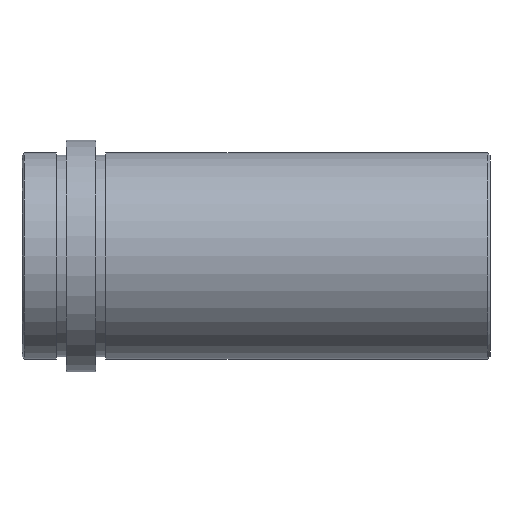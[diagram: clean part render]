
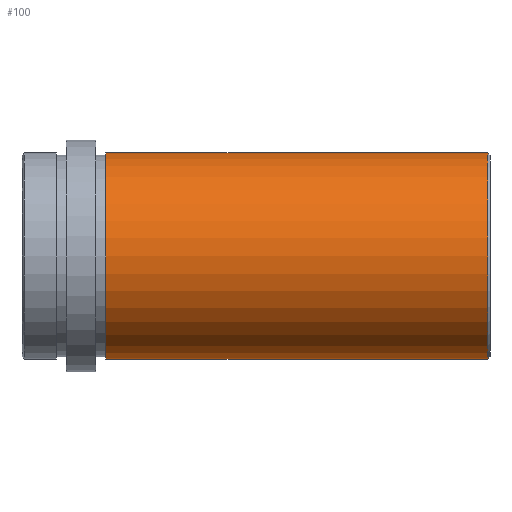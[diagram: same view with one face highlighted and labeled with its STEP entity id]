
A CAD part, front view. The second image highlights one B-rep face of the part: STEP entity #100.
In plain terms, the highlighted face is a revolution surface.
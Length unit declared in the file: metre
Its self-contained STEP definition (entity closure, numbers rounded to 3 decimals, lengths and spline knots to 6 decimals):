
#100 = ADVANCED_FACE( '', ( #157 ), #158, .F. );
#157 = FACE_OUTER_BOUND( '', #250, .T. );
#158 = SURFACE_OF_REVOLUTION( '', #251, #252 );
#250 = EDGE_LOOP( '', ( #419, #420, #421, #422 ) );
#251 = B_SPLINE_CURVE_WITH_KNOTS( '', 1, ( #423, #424 ), .UNSPECIFIED., .F., .F., ( 2, 2 ), ( -10000., 10000. ), .UNSPECIFIED. );
#252 = AXIS1_PLACEMENT( '', #425, #426 );
#419 = ORIENTED_EDGE( '', *, *, #492, .T. );
#420 = ORIENTED_EDGE( '', *, *, #490, .T. );
#421 = ORIENTED_EDGE( '', *, *, #445, .F. );
#422 = ORIENTED_EDGE( '', *, *, #489, .T. );
#423 = CARTESIAN_POINT( '', ( 10000.0945, 0., 0.021 ) );
#424 = CARTESIAN_POINT( '', ( -9999.9055, 0., 0.021 ) );
#425 = CARTESIAN_POINT( '', ( 0., 0., 0. ) );
#426 = DIRECTION( '', ( 1., 0., 0. ) );
#445 = EDGE_CURVE( '', #499, #500, #501, .T. );
#489 = EDGE_CURVE( '', #499, #571, #572, .F. );
#490 = EDGE_CURVE( '', #573, #500, #574, .T. );
#492 = EDGE_CURVE( '', #571, #573, #576, .T. );
#499 = VERTEX_POINT( '', #583 );
#500 = VERTEX_POINT( '', #584 );
#501 = CIRCLE( '', #585, 0.021 );
#571 = VERTEX_POINT( '', #671 );
#572 = LINE( '', #672, #673 );
#573 = VERTEX_POINT( '', #674 );
#574 = LINE( '', #675, #676 );
#576 = CIRCLE( '', #678, 0.021 );
#583 = CARTESIAN_POINT( '', ( 0.017, 0., -0.021 ) );
#584 = CARTESIAN_POINT( '', ( 0.017, 0., 0.021 ) );
#585 = AXIS2_PLACEMENT_3D( '', #689, #690, #691 );
#671 = CARTESIAN_POINT( '', ( 0.0945, 0., -0.021 ) );
#672 = CARTESIAN_POINT( '', ( 0.0945, 0., -0.021 ) );
#673 = VECTOR( '', #789, 1. );
#674 = CARTESIAN_POINT( '', ( 0.0945, 0., 0.021 ) );
#675 = CARTESIAN_POINT( '', ( 0.0945, 0., 0.021 ) );
#676 = VECTOR( '', #790, 1. );
#678 = AXIS2_PLACEMENT_3D( '', #794, #795, #796 );
#689 = CARTESIAN_POINT( '', ( 0.017, 0., 0. ) );
#690 = DIRECTION( '', ( -1., 0., 0. ) );
#691 = DIRECTION( '', ( 0., 0., 1. ) );
#789 = DIRECTION( '', ( -1., 0., 0. ) );
#790 = DIRECTION( '', ( -1., 0., 0. ) );
#794 = CARTESIAN_POINT( '', ( 0.0945, 0., 0. ) );
#795 = DIRECTION( '', ( -1., 0., 0. ) );
#796 = DIRECTION( '', ( 0., 0., 1. ) );
